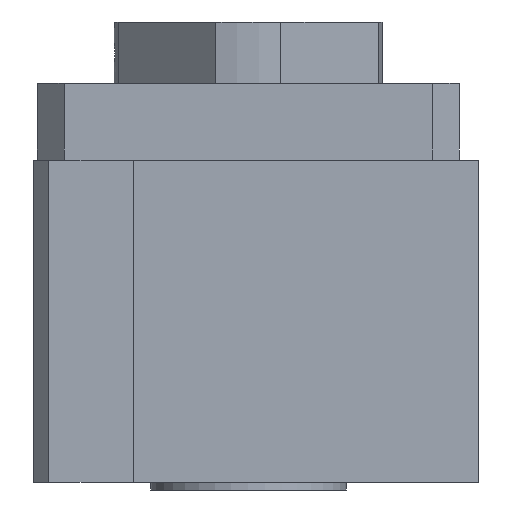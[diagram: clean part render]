
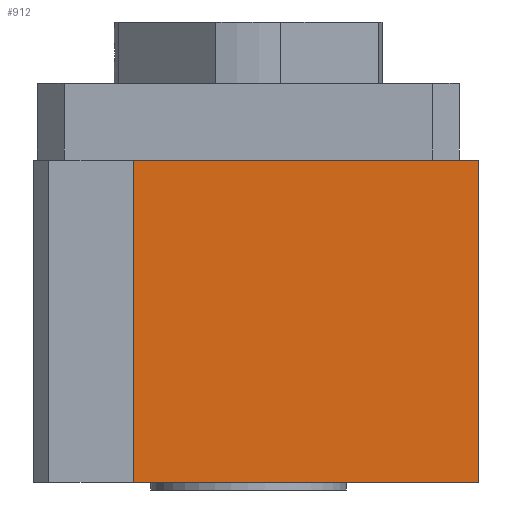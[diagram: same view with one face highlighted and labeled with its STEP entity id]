
A CAD part, left-side view. The second image highlights one B-rep face of the part: STEP entity #912.
In plain terms, the highlighted planar face has unit normal (-1, 0, 0).
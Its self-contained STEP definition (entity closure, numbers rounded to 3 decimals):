
#30=LINE($,#1478,#100);
#73=LINE($,#1638,#143);
#74=LINE($,#1640,#144);
#75=LINE($,#1641,#145);
#100=VECTOR($,#1068,45.);
#143=VECTOR($,#1245,42.);
#144=VECTOR($,#1246,45.);
#145=VECTOR($,#1247,42.);
#193=FACE_OUTER_BOUND($,#355,.T.);
#355=EDGE_LOOP($,(#779,#780,#781,#782));
#438=VERTEX_POINT($,#1475);
#439=VERTEX_POINT($,#1477);
#489=VERTEX_POINT($,#1637);
#490=VERTEX_POINT($,#1639);
#526=EDGE_CURVE($,#439,#438,#30,.T.);
#595=EDGE_CURVE($,#438,#489,#73,.T.);
#596=EDGE_CURVE($,#490,#489,#74,.T.);
#597=EDGE_CURVE($,#439,#490,#75,.T.);
#779=ORIENTED_EDGE($,*,*,#526,.T.);
#780=ORIENTED_EDGE($,*,*,#595,.T.);
#781=ORIENTED_EDGE($,*,*,#596,.F.);
#782=ORIENTED_EDGE($,*,*,#597,.F.);
#857=PLANE($,#1006);
#912=ADVANCED_FACE($,(#193),#857,.T.);
#1006=AXIS2_PLACEMENT_3D($,#1636,#1243,#1244);
#1068=DIRECTION($,(0.,-1.,0.));
#1243=DIRECTION('center_axis',(-1.,0.,0.));
#1244=DIRECTION('ref_axis',(0.,-1.,0.));
#1245=DIRECTION($,(0.,0.,1.));
#1246=DIRECTION($,(0.,-1.,0.));
#1247=DIRECTION($,(0.,0.,1.));
#1475=CARTESIAN_POINT('',(0.,0.,0.));
#1477=CARTESIAN_POINT('',(0.,45.,0.));
#1478=CARTESIAN_POINT($,(0.,45.,0.));
#1636=CARTESIAN_POINT('Origin',(0.,45.,0.));
#1637=CARTESIAN_POINT('',(0.,0.,42.));
#1638=CARTESIAN_POINT($,(0.,0.,0.));
#1639=CARTESIAN_POINT('',(0.,45.,42.));
#1640=CARTESIAN_POINT($,(0.,45.,42.));
#1641=CARTESIAN_POINT($,(0.,45.,0.));
